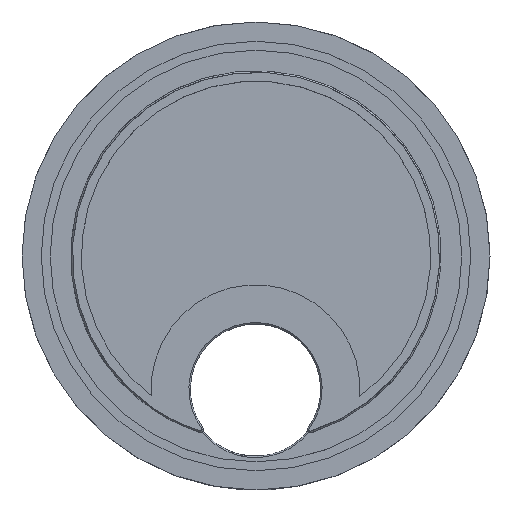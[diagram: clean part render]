
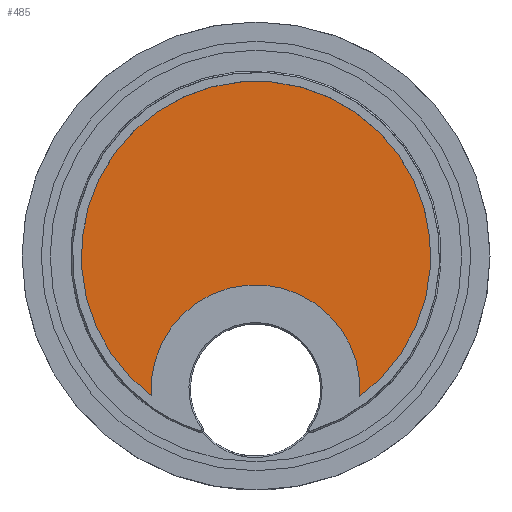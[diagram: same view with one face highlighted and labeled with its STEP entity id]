
A CAD part, top view. The second image highlights one B-rep face of the part: STEP entity #485.
In plain terms, the highlighted planar face has unit normal (0, 0, 1).
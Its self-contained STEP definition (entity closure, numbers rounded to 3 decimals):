
#30=PLANE('',#559);
#66=FACE_OUTER_BOUND('',#100,.T.);
#100=EDGE_LOOP('',(#411,#412));
#163=CIRCLE('',#539,35.245);
#174=CIRCLE('',#558,59.);
#222=VERTEX_POINT('',#830);
#223=VERTEX_POINT('',#832);
#279=EDGE_CURVE('',#222,#223,#163,.T.);
#298=EDGE_CURVE('',#223,#222,#174,.T.);
#411=ORIENTED_EDGE('',*,*,#298,.F.);
#412=ORIENTED_EDGE('',*,*,#279,.F.);
#485=ADVANCED_FACE('',(#66),#30,.T.);
#539=AXIS2_PLACEMENT_3D('',#833,#647,#648);
#558=AXIS2_PLACEMENT_3D('',#896,#691,#692);
#559=AXIS2_PLACEMENT_3D('',#897,#693,#694);
#647=DIRECTION('center_axis',(0.,0.,1.));
#648=DIRECTION('ref_axis',(0.345,-0.939,0.));
#691=DIRECTION('center_axis',(0.,0.,-1.));
#692=DIRECTION('ref_axis',(-1.,0.,0.));
#693=DIRECTION('center_axis',(0.,0.,1.));
#694=DIRECTION('ref_axis',(1.,0.,0.));
#830=CARTESIAN_POINT('',(34.997,-47.5,7.));
#832=CARTESIAN_POINT('',(-35.332,-47.251,7.));
#833=CARTESIAN_POINT('Origin',(-0.159,-45.,7.));
#896=CARTESIAN_POINT('Origin',(0.,0.,7.));
#897=CARTESIAN_POINT('Origin',(0.,0.,7.));
